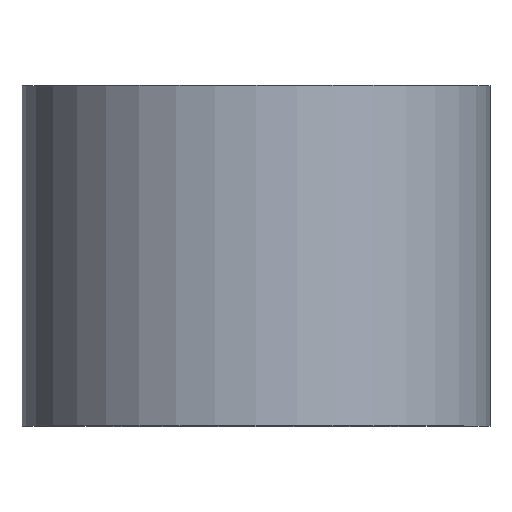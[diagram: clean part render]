
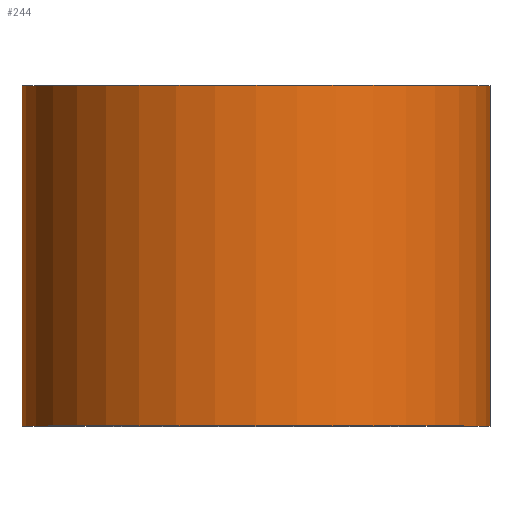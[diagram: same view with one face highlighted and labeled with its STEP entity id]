
A CAD part, top view. The second image highlights one B-rep face of the part: STEP entity #244.
In plain terms, the highlighted cylindrical face has radius 11 mm (diameter 22 mm), a partial arc.
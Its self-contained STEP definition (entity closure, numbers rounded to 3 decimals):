
#2 = ORIENTED_EDGE ( 'NONE', *, *, #184, .F. ) ;
#17 = LINE ( 'NONE', #221, #294 ) ;
#26 = AXIS2_PLACEMENT_3D ( 'NONE', #60, #107, #265 ) ;
#38 = CARTESIAN_POINT ( 'NONE',  ( -11., 0., 0. ) ) ;
#39 = AXIS2_PLACEMENT_3D ( 'NONE', #56, #191, #105 ) ;
#40 = CARTESIAN_POINT ( 'NONE',  ( 11., 0., 0. ) ) ;
#45 = CARTESIAN_POINT ( 'NONE',  ( 0., 0., 0. ) ) ;
#56 = CARTESIAN_POINT ( 'NONE',  ( 0., 16., 0. ) ) ;
#60 = CARTESIAN_POINT ( 'NONE',  ( 0., 0., 0. ) ) ;
#61 = DIRECTION ( 'NONE',  ( -1., 0., 0. ) ) ;
#63 = DIRECTION ( 'NONE',  ( 0., 1., 0. ) ) ;
#87 = CIRCLE ( 'NONE', #26, 11. ) ;
#93 = ORIENTED_EDGE ( 'NONE', *, *, #282, .T. ) ;
#102 = CARTESIAN_POINT ( 'NONE',  ( -11., 16., 0. ) ) ;
#105 = DIRECTION ( 'NONE',  ( -1., 0., 0. ) ) ;
#107 = DIRECTION ( 'NONE',  ( 0., 1., 0. ) ) ;
#112 = FACE_OUTER_BOUND ( 'NONE', #183, .T. ) ;
#120 = LINE ( 'NONE', #284, #250 ) ;
#144 = EDGE_CURVE ( 'NONE', #273, #211, #120, .T. ) ;
#157 = ORIENTED_EDGE ( 'NONE', *, *, #144, .F. ) ;
#167 = ORIENTED_EDGE ( 'NONE', *, *, #235, .T. ) ;
#183 = EDGE_LOOP ( 'NONE', ( #93, #167, #2, #157 ) ) ;
#184 = EDGE_CURVE ( 'NONE', #211, #274, #257, .T. ) ;
#191 = DIRECTION ( 'NONE',  ( 0., 1., 0. ) ) ;
#211 = VERTEX_POINT ( 'NONE', #102 ) ;
#221 = CARTESIAN_POINT ( 'NONE',  ( 11., 0., 0. ) ) ;
#223 = DIRECTION ( 'NONE',  ( 0., 1., 0. ) ) ;
#227 = AXIS2_PLACEMENT_3D ( 'NONE', #45, #63, #61 ) ;
#232 = VERTEX_POINT ( 'NONE', #40 ) ;
#235 = EDGE_CURVE ( 'NONE', #232, #274, #17, .T. ) ;
#240 = CYLINDRICAL_SURFACE ( 'NONE', #227, 11. ) ;
#244 = ADVANCED_FACE ( 'NONE', ( #112 ), #240, .T. ) ;
#250 = VECTOR ( 'NONE', #289, 1000. ) ;
#257 = CIRCLE ( 'NONE', #39, 11. ) ;
#265 = DIRECTION ( 'NONE',  ( -1., 0., 0. ) ) ;
#269 = CARTESIAN_POINT ( 'NONE',  ( 11., 16., 0. ) ) ;
#273 = VERTEX_POINT ( 'NONE', #38 ) ;
#274 = VERTEX_POINT ( 'NONE', #269 ) ;
#282 = EDGE_CURVE ( 'NONE', #273, #232, #87, .T. ) ;
#284 = CARTESIAN_POINT ( 'NONE',  ( -11., 0., 0. ) ) ;
#289 = DIRECTION ( 'NONE',  ( 0., 1., 0. ) ) ;
#294 = VECTOR ( 'NONE', #223, 1000. ) ;
